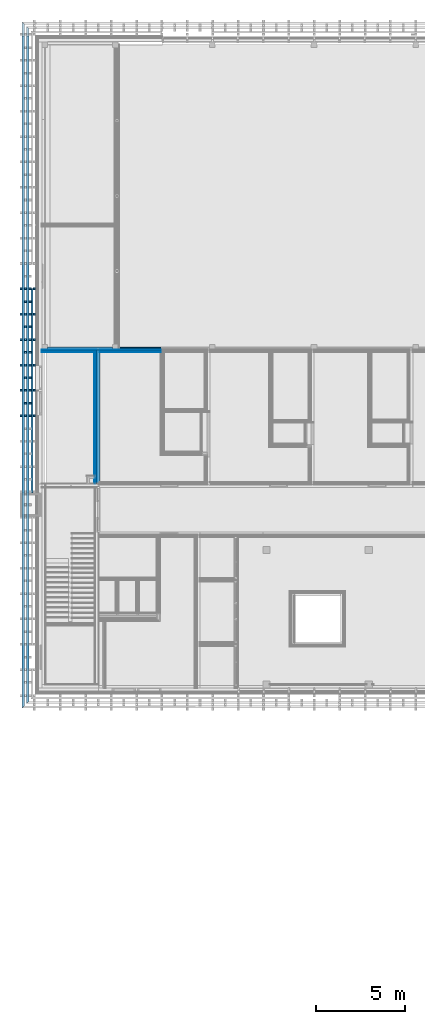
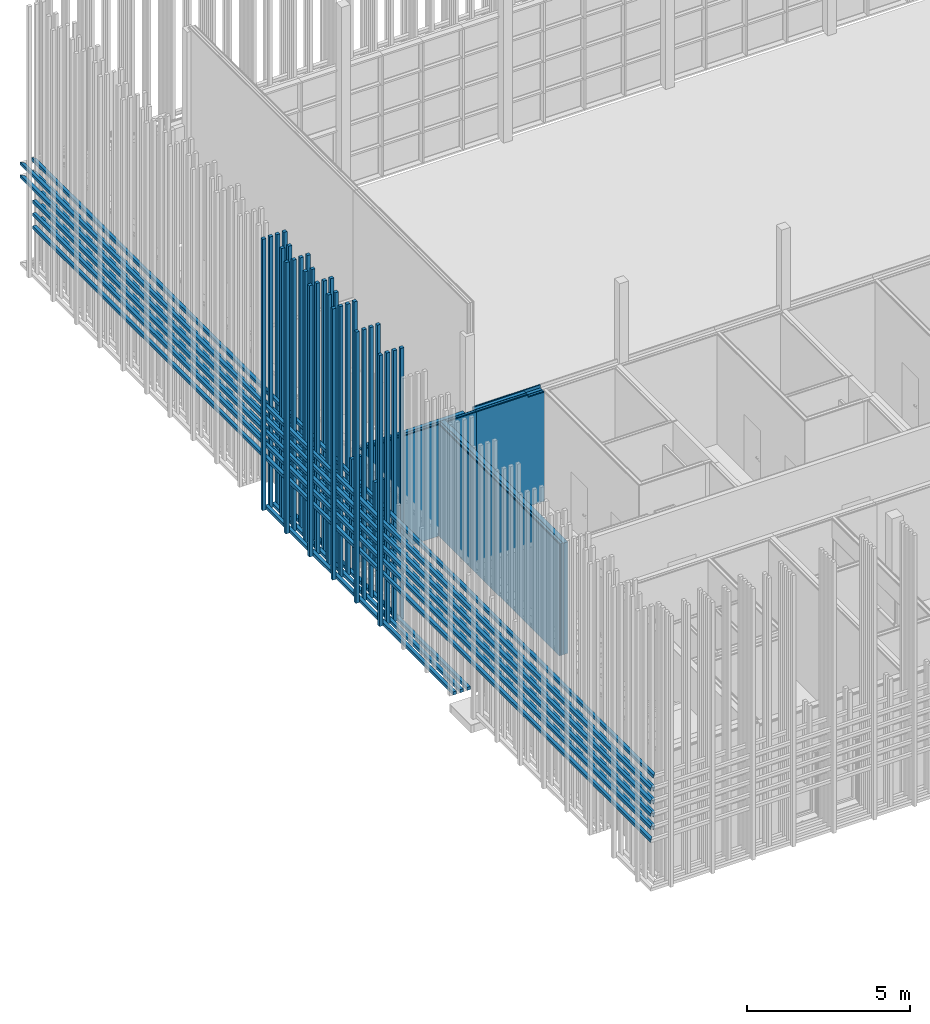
# One storey, part 222 of 260: 21 building element parts, 17 discrete accessories, 3 elements without a shape of their own.
"""IFC2X3 building model written with IfcOpenShell, lengths in millimetres."""

from ifc_helpers import new_model, entity, si_unit, converted_unit, derived_unit, money_unit, direction, frame, origin_with_axes, place, context, subcontext, project, spatial, faceted_brep, material, material_list, type_object, element, aggregate, save


model = new_model("IFC2X3")

# Units and contexts
model_context = context("Model", 3, precision=0.01, world=origin_with_axes(), true_north=direction((0.0, 1.0)))
body_context = subcontext(model_context, "Body", "Model", "MODEL_VIEW")
ifc_project = project(units=[si_unit("LENGTHUNIT", "METRE", prefix="MILLI"), si_unit("AREAUNIT", "SQUARE_METRE"), si_unit("VOLUMEUNIT", "CUBIC_METRE"), converted_unit("PLANEANGLEUNIT", "DEGREE", entity("IfcPlaneAngleMeasure", 0.0174532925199), si_unit("PLANEANGLEUNIT", "RADIAN"), dimensions=[0, 0, 0, 0, 0, 0, 0]), money_unit("EUR"), converted_unit("TIMEUNIT", "Year", entity("IfcTimeMeasure", 31556926.0), si_unit("TIMEUNIT", "SECOND"), dimensions=[0, 0, 1, 0, 0, 0, 0]), si_unit("MASSUNIT", "GRAM", prefix="KILO"), si_unit("THERMODYNAMICTEMPERATUREUNIT", "DEGREE_CELSIUS"), si_unit("LUMINOUSINTENSITYUNIT", "LUMEN"), si_unit("ENERGYUNIT", "JOULE", prefix="MEGA"), derived_unit("THERMALCONDUCTANCEUNIT", [(si_unit("POWERUNIT", "WATT"), 1), (si_unit("LENGTHUNIT", "METRE"), -1), (si_unit("THERMODYNAMICTEMPERATUREUNIT", "KELVIN"), -1)]), derived_unit("SPECIFICHEATCAPACITYUNIT", [(si_unit("ENERGYUNIT", "JOULE"), 1), (si_unit("MASSUNIT", "GRAM", prefix="KILO"), -1), (si_unit("THERMODYNAMICTEMPERATUREUNIT", "KELVIN"), -1)]), derived_unit("MASSDENSITYUNIT", [(si_unit("MASSUNIT", "GRAM", prefix="KILO"), 1), (si_unit("VOLUMEUNIT", "CUBIC_METRE"), -1)])], contexts=[model_context])

# Site, building, storey
site_placement = place(None, origin_with_axes())
site = spatial("IfcSite", under=ifc_project, at=site_placement, Name="Kolde pst 67a", CompositionType="ELEMENT")
building_placement = place(site_placement, origin_with_axes())
building = spatial("IfcBuilding", under=site, at=building_placement, Name="Riigigümnaasium", CompositionType="ELEMENT")
storey_placement = place(building_placement, origin_with_axes())
storey = spatial("IfcBuildingStorey", under=building, at=storey_placement, Name="1. korrus", CompositionType="ELEMENT", Elevation=0.0)

# Discrete accessories
ifc_material_1 = material(Name="_VÄLISVIIMISTLUS - sõrmjätkatud puitprussid 120x115mm, liitekohad vähemärgatavad, Platowood sõrmjätkatud kuusk või samaväärne; eeltöödeldud tuletõkkevõõbaga, tuletundlikkus B-s1, d0, Woodsafe Exterior WFX™ või samaväärne; kinnitused vastavalt EK osale")
ifc_material_list_1 = material_list([ifc_material_1, ifc_material_1, ifc_material_1, ifc_material_1])
discrete_accessory_type_1 = type_object("IfcDiscreteAccessoryType", Name="120 4-ne vertikaalne 870 x 115")
for number, where, z_axis, x_axis in (
    (1, (-310.003213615, 70542.2222771, 280.0), (0.0, 0.0, 1.0), (0.999999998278, -5.86859191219e-05, 0.0)),
    (2, (-310.003213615, 69112.2222771, 280.0), (0.0, 0.0, 1.0), (0.999999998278, -5.86859191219e-05, 0.0)),
    (3, (-310.003213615, 67682.2222772, 280.0), (0.0, 0.0, 1.0), (0.999999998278, -5.86859191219e-05, 0.0)),
    (4, (-310.003213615, 66252.2222772, 280.0), (0.0, 0.0, 1.0), (0.999999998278, -5.86859191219e-05, 0.0)),
    (5, (-310.003213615, 64822.2222772, 280.0), (0.0, 0.0, 1.0), (0.999999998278, -5.86859191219e-05, 0.0)),
    (6, (-310.003213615, 63392.2222772, 280.0), (0.0, 0.0, 1.0), (0.999999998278, -5.86859191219e-05, 0.0)),
):
    element("IfcDiscreteAccessory", number, at=place(storey_placement, frame(where, z_axis=z_axis, x_axis=x_axis)), inside=storey, type_object=discrete_accessory_type_1, material=ifc_material_list_1, Name="Päikesevarjestus", context=body_context, shape_type="Brep", body=[
        faceted_brep([(-133.0, -70.0, 0.0), (-13.0, -70.0, 0.0), (-13.0, -70.0, 10140.0), (-133.0, -70.0, 10140.0), (-133.0, 45.0, 0.0), (-13.0, 45.0, 0.0), (-13.0, 45.0, 10140.0), (-133.0, 45.0, 10140.0)], [[[0, 1, 2, 3]], [[0, 4, 5, 1]], [[1, 5, 6, 2]], [[3, 2, 6, 7]], [[4, 0, 3, 7]], [[5, 4, 7, 6]]]),
        faceted_brep([(-383.0, -70.0, 0.0), (-263.0, -70.0, 0.0), (-263.0, -70.0, 10140.0), (-383.0, -70.0, 10140.0), (-383.0, 45.0, 0.0), (-263.0, 45.0, 0.0), (-263.0, 45.0, 10140.0), (-383.0, 45.0, 10140.0)], [[[0, 1, 2, 3]], [[0, 4, 5, 1]], [[1, 5, 6, 2]], [[3, 2, 6, 7]], [[4, 0, 3, 7]], [[5, 4, 7, 6]]]),
        faceted_brep([(-633.0, -70.0, 0.0), (-513.0, -70.0, 0.0), (-513.0, -70.0, 10140.0), (-633.0, -70.0, 10140.0), (-633.0, 45.0, 0.0), (-513.0, 45.0, 0.0), (-513.0, 45.0, 10140.0), (-633.0, 45.0, 10140.0)], [[[0, 1, 2, 3]], [[0, 4, 5, 1]], [[1, 5, 6, 2]], [[3, 2, 6, 7]], [[4, 0, 3, 7]], [[5, 4, 7, 6]]]),
        faceted_brep([(-883.0, -70.0, 0.0), (-763.0, -70.0, 0.0), (-763.0, -70.0, 10140.0), (-883.0, -70.0, 10140.0), (-883.0, 45.0, 0.0), (-763.0, 45.0, 0.0), (-763.0, 45.0, 10140.0), (-883.0, 45.0, 10140.0)], [[[0, 1, 2, 3]], [[0, 4, 5, 1]], [[1, 5, 6, 2]], [[3, 2, 6, 7]], [[4, 0, 3, 7]], [[5, 4, 7, 6]]]),
    ])
ifc_material_list_2 = material_list([ifc_material_1, ifc_material_1, ifc_material_1])
discrete_accessory_type_2 = type_object("IfcDiscreteAccessoryType", Name="120 1+paiksekaitse 3 tk  620 x 115")
discrete_accessory_1_placement = place(storey_placement, frame((-323.002280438, 70565.0003722, 352.5), z_axis=(0.0, 0.0, 1.0), x_axis=(-1.0, 0.0, 0.0)))
element("IfcDiscreteAccessory", 7, at=discrete_accessory_1_placement, inside=storey, type_object=discrete_accessory_type_2, material=ifc_material_list_2, Name="Päikesevarjestus", context=body_context, shape_type="Brep", body=[
    faceted_brep([(625.0, 11533.9089123, 45.0), (625.0, 0.0, 45.0), (745.0, 0.0, 45.0), (745.0, 11533.9089123, 45.0), (625.0, 11533.9089123, -70.0), (625.0, 0.0, -70.0), (745.0, 0.0, -70.0), (745.0, 11533.9089123, -70.0)], [[[0, 1, 2, 3]], [[4, 5, 1, 0]], [[5, 6, 2, 1]], [[3, 2, 6, 7]], [[4, 0, 3, 7]], [[7, 6, 5, 4]]]),
    faceted_brep([(375.0, 11533.9089123, 45.0), (375.0, 0.0, 45.0), (495.0, 0.0, 45.0), (495.0, 11533.9089123, 45.0), (375.0, 11533.9089123, -70.0), (375.0, 0.0, -70.0), (495.0, 0.0, -70.0), (495.0, 11533.9089123, -70.0)], [[[0, 1, 2, 3]], [[4, 5, 1, 0]], [[5, 6, 2, 1]], [[3, 2, 6, 7]], [[4, 0, 3, 7]], [[7, 6, 5, 4]]]),
    faceted_brep([(125.0, 11533.9089123, 45.0), (125.0, 0.0, 45.0), (245.0, 0.0, 45.0), (245.0, 11533.9089123, 45.0), (125.0, 11533.9089123, -70.0), (125.0, 0.0, -70.0), (245.0, 0.0, -70.0), (245.0, 11533.9089123, -70.0)], [[[0, 1, 2, 3]], [[4, 5, 1, 0]], [[5, 6, 2, 1]], [[3, 2, 6, 7]], [[4, 0, 3, 7]], [[7, 6, 5, 4]]]),
])
ifc_material_list_3 = material_list([ifc_material_1, ifc_material_1])
discrete_accessory_type_3 = type_object("IfcDiscreteAccessoryType", Name="1+paiksekaitse 4 tk nihkes 2 370 x 355")
discrete_accessory_2_placement = place(storey_placement, frame((-322.999590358, 84770.0069769, 2580.00014213), z_axis=(0.0, 0.0, 1.0), x_axis=(-1.0, 1.8937548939e-07, 0.0)))
element("IfcDiscreteAccessory", 8, at=discrete_accessory_2_placement, inside=storey, type_object=discrete_accessory_type_3, material=ifc_material_list_3, Name="Päikesevarjestus", context=body_context, shape_type="Brep", body=[
    faceted_brep([(375.0, 37471.4086862, 347.001360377), (375.0, 0.0, 347.001360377), (495.0, 0.0, 357.5), (495.0, 37591.445393, 357.5), (375.0, 37471.4086862, 242.5), (375.0, 0.0, 242.5), (495.0, 0.0, 242.5), (495.0, 37591.445393, 242.5)], [[[0, 1, 2, 3]], [[4, 5, 1, 0]], [[5, 6, 2, 1]], [[3, 2, 6, 7]], [[4, 0, 3, 7]], [[7, 6, 5, 4]]]),
    faceted_brep([(625.0, 37721.4851587, 107.001360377), (625.0, 0.0, 107.001360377), (745.0, 0.0, 117.5), (745.0, 37841.5218656, 117.5), (625.0, 37721.4851587, 2.5), (625.0, 0.0, 2.5), (745.0, 0.0, 2.5), (745.0, 37841.5218656, 2.5)], [[[0, 1, 2, 3]], [[4, 5, 1, 0]], [[5, 6, 2, 1]], [[3, 2, 6, 7]], [[4, 0, 3, 7]], [[7, 6, 5, 4]]]),
])
discrete_accessory_3_placement = place(storey_placement, frame((-322.999590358, 84770.0069769, 3060.00014213), z_axis=(0.0, 0.0, 1.0), x_axis=(-1.0, 1.89375489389e-07, 0.0)))
element("IfcDiscreteAccessory", 9, at=discrete_accessory_3_placement, inside=storey, type_object=discrete_accessory_type_3, material=ifc_material_list_3, Name="Päikesevarjestus", context=body_context, shape_type="Brep", body=[
    faceted_brep([(375.0, 37471.4084181, 347.001360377), (375.0, 0.0, 347.001360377), (495.0, 0.0, 357.5), (495.0, 37591.445046, 357.5), (375.0, 37471.4084181, 242.5), (375.0, 0.0, 242.5), (495.0, 0.0, 242.5), (495.0, 37591.445046, 242.5)], [[[0, 1, 2, 3]], [[4, 5, 1, 0]], [[5, 6, 2, 1]], [[3, 2, 6, 7]], [[4, 0, 3, 7]], [[7, 6, 5, 4]]]),
    faceted_brep([(625.0, 37721.4847263, 107.001360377), (625.0, 0.0, 107.001360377), (745.0, 0.0, 117.5), (745.0, 37841.5213542, 117.5), (625.0, 37721.4847263, 2.5), (625.0, 0.0, 2.5), (745.0, 0.0, 2.5), (745.0, 37841.5213542, 2.5)], [[[0, 1, 2, 3]], [[4, 5, 1, 0]], [[5, 6, 2, 1]], [[3, 2, 6, 7]], [[4, 0, 3, 7]], [[7, 6, 5, 4]]]),
])
for number, where, z_axis, x_axis in (
    (10, (-322.999584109, 84803.0069831, 3540.00014213), (0.0, 0.0, 1.0), (-1.0, 1.89375489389e-07, 0.0)),
    (11, (-322.999584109, 84803.0069831, 4020.00014213), (0.0, 0.0, 1.0), (-1.0, 1.89375489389e-07, 0.0)),
):
    element("IfcDiscreteAccessory", number, at=place(storey_placement, frame(where, z_axis=z_axis, x_axis=x_axis)), inside=storey, type_object=discrete_accessory_type_3, material=ifc_material_list_3, Name="Päikesevarjestus", context=body_context, shape_type="Brep", body=[
        faceted_brep([(375.0, 37504.4084243, 347.001360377), (375.0, -374.999999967, 347.001360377), (495.0, -494.999999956, 357.5), (495.0, 37624.4450523, 357.5), (375.0, 37504.4084243, 242.5), (375.0, -374.999999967, 242.5), (495.0, -494.999999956, 242.5), (495.0, 37624.4450523, 242.5)], [[[0, 1, 2, 3]], [[4, 5, 1, 0]], [[5, 6, 2, 1]], [[3, 2, 6, 7]], [[4, 0, 3, 7]], [[7, 6, 5, 4]]]),
        faceted_brep([(625.0, 37754.4847325, 107.001360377), (625.0, -624.999999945, 107.001360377), (745.0, -744.999999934, 117.5), (745.0, 37874.5213605, 117.5), (625.0, 37754.4847325, 2.5), (625.0, -624.999999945, 2.5), (745.0, -744.999999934, 2.5), (745.0, 37874.5213605, 2.5)], [[[0, 1, 2, 3]], [[4, 5, 1, 0]], [[5, 6, 2, 1]], [[3, 2, 6, 7]], [[4, 0, 3, 7]], [[7, 6, 5, 4]]]),
    ])
discrete_accessory_4_placement = place(storey_placement, frame((-322.999590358, 84770.0069769, 2100.00014213), z_axis=(0.0, 0.0, 1.0), x_axis=(-1.0, 1.8937548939e-07, 0.0)))
element("IfcDiscreteAccessory", 12, at=discrete_accessory_4_placement, inside=storey, type_object=discrete_accessory_type_3, material=ifc_material_list_3, Name="Päikesevarjestus", context=body_context, shape_type="Brep", body=[
    faceted_brep([(375.0, 37471.4086862, 347.001360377), (375.0, 0.0, 347.001360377), (495.0, 0.0, 357.5), (495.0, 37591.445393, 357.5), (375.0, 37471.4086862, 242.5), (375.0, 0.0, 242.5), (495.0, 0.0, 242.5), (495.0, 37591.445393, 242.5)], [[[0, 1, 2, 3]], [[4, 5, 1, 0]], [[5, 6, 2, 1]], [[3, 2, 6, 7]], [[4, 0, 3, 7]], [[7, 6, 5, 4]]]),
    faceted_brep([(625.0, 37721.4851587, 107.001360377), (625.0, 0.0, 107.001360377), (745.0, 0.0, 117.5), (745.0, 37841.5218656, 117.5), (625.0, 37721.4851587, 2.5), (625.0, 0.0, 2.5), (745.0, 0.0, 2.5), (745.0, 37841.5218656, 2.5)], [[[0, 1, 2, 3]], [[4, 5, 1, 0]], [[5, 6, 2, 1]], [[3, 2, 6, 7]], [[4, 0, 3, 7]], [[7, 6, 5, 4]]]),
])
discrete_accessory_type_4 = type_object("IfcDiscreteAccessoryType", Name="1+paiksekaitse 3 370 x 115")
for number, where, z_axis, x_axis in (
    (13, (-1290.00042497, 68324.7586624, 280.0), (0.0, 0.0, 1.0), (1.0, 0.0, 0.0)),
    (14, (-1290.00042497, 69754.7586624, 280.0), (0.0, 0.0, 1.0), (1.0, 0.0, 0.0)),
    (15, (-1290.00042497, 66894.7586624, 280.0), (0.0, 0.0, 1.0), (1.0, 0.0, 0.0)),
):
    element("IfcDiscreteAccessory", number, at=place(storey_placement, frame(where, z_axis=z_axis, x_axis=x_axis)), inside=storey, type_object=discrete_accessory_type_4, material=ifc_material_list_3, Name="Päikesevarjestus", context=body_context, shape_type="Brep", body=[
        faceted_brep([(467.0, 117.5, 0.0), (347.0, 117.5, 0.0), (347.0, 117.5, 10140.0), (467.0, 117.5, 10140.0), (467.0, 2.5, 0.0), (347.0, 2.5, 0.0), (347.0, 2.5, 10140.0), (467.0, 2.5, 10140.0)], [[[0, 1, 2, 3]], [[0, 4, 5, 1]], [[1, 5, 6, 2]], [[3, 2, 6, 7]], [[4, 0, 3, 7]], [[5, 4, 7, 6]]]),
        faceted_brep([(717.0, 117.5, 0.0), (597.0, 117.5, 0.0), (597.0, 117.5, 10140.0), (717.0, 117.5, 10140.0), (717.0, 2.5, 0.0), (597.0, 2.50000000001, 0.0), (597.0, 2.50000000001, 10140.0), (717.0, 2.5, 10140.0)], [[[0, 1, 2, 3]], [[0, 4, 5, 1]], [[1, 5, 6, 2]], [[3, 2, 6, 7]], [[4, 0, 3, 7]], [[5, 4, 7, 6]]]),
    ])
for number, where, z_axis, x_axis in (
    (16, (-1290.00746728, 65464.7585658, 2100.00014213), (0.0, 0.0, 1.0), (1.0, 0.0, 0.0)),
    (17, (-1290.00746728, 64034.7585658, 2100.00014213), (0.0, 0.0, 1.0), (1.0, 0.0, 0.0)),
):
    element("IfcDiscreteAccessory", number, at=place(storey_placement, frame(where, z_axis=z_axis, x_axis=x_axis)), inside=storey, type_object=discrete_accessory_type_4, material=ifc_material_list_3, Name="Päikesevarjestus", context=body_context, shape_type="Brep", body=[
        faceted_brep([(467.0, 117.5, 0.0), (347.0, 117.5, 0.0), (347.0, 117.5, 3050.0), (467.0, 117.5, 3050.0), (467.0, 2.5, 0.0), (347.0, 2.5, 0.0), (347.0, 2.5, 3050.0), (467.0, 2.5, 3050.0)], [[[0, 1, 2, 3]], [[0, 4, 5, 1]], [[1, 5, 6, 2]], [[3, 2, 6, 7]], [[4, 0, 3, 7]], [[5, 4, 7, 6]]]),
        faceted_brep([(717.0, 117.5, 0.0), (597.0, 117.5, 0.0), (597.0, 117.5, 3050.0), (717.0, 117.5, 3050.0), (717.0, 2.5, 0.0), (597.0, 2.50000000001, 0.0), (597.0, 2.50000000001, 3050.0), (717.0, 2.5, 3050.0)], [[[0, 1, 2, 3]], [[0, 4, 5, 1]], [[1, 5, 6, 2]], [[3, 2, 6, 7]], [[4, 0, 3, 7]], [[5, 4, 7, 6]]]),
    ])

# Wall, building element parts
wall_type = type_object("IfcWallType", Name="SS-CLT-16/1_vill75+krohv 52 dB 300", PredefinedType="NOTDEFINED")
wall_1_placement = place(storey_placement, frame((3299.93768339, 67089.9971514, 0.0), z_axis=(0.0, 0.0, 1.0), x_axis=(0.0, -1.0, 0.0)))
wall_1 = element("IfcWall", 18, at=wall_1_placement, inside=storey, type_object=wall_type, Name="Sisesein")
ifc_material_2 = material(Name="_KANDETARIND - CLT ristkihtliimpuit vastavalt EK osale, CLT paigaldusvuugid teibitakse ROTHOBLAAS teibiga")
building_element_part_1_placement = place(wall_1_placement, origin_with_axes())
building_element_part_1 = element("IfcBuildingElementPart", 19, at=building_element_part_1_placement, material=ifc_material_2, Name="_KANDETARIND - CLT ristkihtliimpuit vastavalt EK osale, CLT paigaldusvuugid teibitakse ROTHOBLAAS teibiga", context=body_context, shape_type="Brep", body=[
    faceted_brep([(0.0, -160.0, 0.0), (0.0, -160.0, 4170.0), (0.0, 0.0, 4170.0), (0.0, 0.0, 0.0), (7529.99920353, -160.0, 0.0), (7529.99920353, -160.0, 4170.0), (7529.99920353, 0.0, 4170.0), (7529.99920353, 0.0, 0.0)], [[[0, 1, 2, 3]], [[4, 5, 1, 0]], [[5, 6, 2, 1]], [[3, 2, 6, 7]], [[0, 3, 7, 4]], [[7, 6, 5, 4]]]),
])
ifc_material_3 = material(Name="_ÕHKVAHE")
building_element_part_2_placement = place(wall_1_placement, origin_with_axes())
building_element_part_2 = element("IfcBuildingElementPart", 20, at=building_element_part_2_placement, material=ifc_material_3, Name="_ÕHKVAHE", context=body_context, shape_type="Brep", body=[
    faceted_brep([(15.0, -175.0, 0.0), (15.0, -175.0, 4170.0), (15.0, -160.0, 4170.0), (15.0, -160.0, 0.0), (7529.99920353, -175.0, 0.0), (7529.99920353, -175.0, 4170.0), (7529.99920353, -160.0, 4170.0), (7529.99920353, -160.0, 0.0)], [[[0, 1, 2, 3]], [[4, 5, 1, 0]], [[5, 6, 2, 1]], [[3, 2, 6, 7]], [[0, 3, 7, 4]], [[7, 6, 5, 4]]]),
])
ifc_material_4 = material(Name="_KARKASS - metallkarkass CW 75/50/06 ja UW 75/40/06, samm 600, vahel mineraalvill, helineeldetegur αw = 1.0,  ISOVER ACOUSTIC 75mm või samaväärne")
building_element_part_3_placement = place(wall_1_placement, origin_with_axes())
building_element_part_3 = element("IfcBuildingElementPart", 21, at=building_element_part_3_placement, material=ifc_material_4, Name="_KARKASS - metallkarkass CW 75/50/06 ja UW 75/40/06, samm 600, vahel mineraalvill, helineeldetegur αw = 1.0,  ISOVER ACOUSTIC 75mm või samaväärne", context=body_context, shape_type="Brep", body=[
    faceted_brep([(90.0, -250.0, 0.0), (90.0, -250.0, 4170.0), (90.0, -175.0, 4170.0), (90.0, -175.0, 0.0), (7529.99920353, -250.0, 0.0), (7529.99920353, -250.0, 4170.0), (7529.99920353, -175.0, 4170.0), (7529.99920353, -175.0, 0.0)], [[[0, 1, 2, 3]], [[4, 5, 1, 0]], [[5, 6, 2, 1]], [[3, 2, 6, 7]], [[0, 3, 7, 4]], [[7, 6, 5, 4]]]),
])
ifc_material_5 = material(Name="_PLAATMATERJAL - OSB3 plaat")
building_element_part_4_placement = place(wall_1_placement, origin_with_axes())
building_element_part_4 = element("IfcBuildingElementPart", 22, at=building_element_part_4_placement, material=ifc_material_5, Name="_PLAATMATERJAL - OSB3 plaat", context=body_context, shape_type="Brep", body=[
    faceted_brep([(100.0, -260.0, 0.0), (100.0, -260.0, 4170.0), (100.0, -250.0, 4170.0), (100.0, -250.0, 0.0), (7529.99920353, -260.0, 0.0), (7529.99920353, -260.0, 4170.0), (7529.99920353, -250.0, 4170.0), (7529.99920353, -250.0, 0.0)], [[[0, 1, 2, 3]], [[4, 5, 1, 0]], [[5, 6, 2, 1]], [[3, 2, 6, 7]], [[0, 3, 7, 4]], [[7, 6, 5, 4]]]),
])
ifc_material_6 = material(Name="_PLAATMATERJAL - tuletõkkekipsplaat, Knauf Red GKF või samaväärne")
building_element_part_5_placement = place(wall_1_placement, origin_with_axes())
building_element_part_5 = element("IfcBuildingElementPart", 23, at=building_element_part_5_placement, material=ifc_material_6, Name="_PLAATMATERJAL - tuletõkkekipsplaat, Knauf Red GKF või samaväärne", context=body_context, shape_type="Brep", body=[
    faceted_brep([(115.0, -275.0, 0.0), (115.0, -275.0, 4170.0), (115.0, -260.0, 4170.0), (115.0, -260.0, 0.0), (7529.99920353, -275.0, 0.0), (7529.99920353, -275.0, 4170.0), (7529.99920353, -260.0, 4170.0), (7529.99920353, -260.0, 0.0)], [[[0, 1, 2, 3]], [[4, 5, 1, 0]], [[5, 6, 2, 1]], [[3, 2, 6, 7]], [[0, 3, 7, 4]], [[7, 6, 5, 4]]]),
])
building_element_part_6_placement = place(wall_1_placement, origin_with_axes())
building_element_part_6 = element("IfcBuildingElementPart", 24, at=building_element_part_6_placement, material=ifc_material_6, Name="_PLAATMATERJAL - tuletõkkekipsplaat, Knauf Red GKF või samaväärne", context=body_context, shape_type="Brep", body=[
    faceted_brep([(130.0, -290.0, 0.0), (130.0, -290.0, 4170.0), (130.0, -275.0, 4170.0), (130.0, -275.0, 0.0), (7529.99920353, -290.0, 0.0), (7529.99920353, -290.0, 4170.0), (7529.99920353, -275.0, 4170.0), (7529.99920353, -275.0, 0.0)], [[[0, 1, 2, 3]], [[4, 5, 1, 0]], [[5, 6, 2, 1]], [[3, 2, 6, 7]], [[0, 3, 7, 4]], [[7, 6, 5, 4]]]),
])
ifc_material_7 = material(Name="_VIIMISTLUSKIHT - viimistlus vastavalt SA osale")
building_element_part_7_placement = place(wall_1_placement, origin_with_axes())
building_element_part_7 = element("IfcBuildingElementPart", 25, at=building_element_part_7_placement, material=ifc_material_7, Name="_VIIMISTLUSKIHT - viimistlus vastavalt SA osale", context=body_context, shape_type="Brep", body=[
    faceted_brep([(140.0, -300.0, 0.0), (140.0, -300.0, 4170.0), (140.0, -290.0, 4170.0), (140.0, -290.0, 0.0), (7529.99920353, -300.0, 0.0), (7529.99920353, -300.0, 4170.0), (7529.99920353, -290.0, 4170.0), (7529.99920353, -290.0, 0.0)], [[[0, 1, 2, 3]], [[4, 5, 1, 0]], [[5, 6, 2, 1]], [[3, 2, 6, 7]], [[0, 3, 7, 4]], [[7, 6, 5, 4]]]),
])
aggregate(wall_1, [building_element_part_1, building_element_part_2, building_element_part_3, building_element_part_4, building_element_part_5, building_element_part_6, building_element_part_7])

wall_2_placement = place(storey_placement, frame((39.9493827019, 67089.9971514, 0.0), z_axis=(0.0, 0.0, 1.0), x_axis=(1.0, 0.0, 0.0)))
wall_2 = element("IfcWall", 26, at=wall_2_placement, inside=storey, type_object=wall_type, Name="Sisesein")
building_element_part_8_placement = place(wall_2_placement, origin_with_axes())
building_element_part_8 = element("IfcBuildingElementPart", 27, at=building_element_part_8_placement, material=ifc_material_2, Name="_KANDETARIND - CLT ristkihtliimpuit vastavalt EK osale, CLT paigaldusvuugid teibitakse ROTHOBLAAS teibiga", context=body_context, shape_type="Brep", body=[
    faceted_brep([(320.0, 160.0, 0.0), (320.0, 160.0, 4150.0), (3980.05011721, 160.0, 4150.0), (3980.05011721, 160.0, 0.0), (320.0, 0.0, 4150.0), (320.0, 0.0, 0.0), (3980.05011721, 2.0307311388e-08, 4150.0), (3980.05011721, 2.0307311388e-08, 0.0)], [[[0, 1, 2, 3]], [[4, 1, 0, 5]], [[1, 4, 6, 2]], [[7, 3, 2, 6]], [[5, 0, 3, 7]], [[4, 5, 7, 6]]]),
])
building_element_part_9_placement = place(wall_2_placement, origin_with_axes())
building_element_part_9 = element("IfcBuildingElementPart", 28, at=building_element_part_9_placement, material=ifc_material_3, Name="_ÕHKVAHE", context=body_context, shape_type="Brep", body=[
    faceted_brep([(160.106975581, 0.0, 100.0), (160.106975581, 0.0, 4170.0), (3099.98830069, 0.0, 4170.0), (3099.98830069, 0.0, 0.0), (0.0, 0.0, 0.0), (0.0, 0.0, 100.0), (160.106975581, -15.0, 100.0), (160.106975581, -15.0, 4170.0), (3099.98830069, -15.0, 4170.0), (3099.98830069, -15.0, 0.0), (0.0, -15.0, 0.0), (0.0, -15.0, 100.0)], [[[0, 1, 2, 3, 4, 5]], [[6, 7, 1, 0]], [[7, 8, 2, 1]], [[3, 2, 8, 9]], [[10, 4, 3, 9]], [[4, 10, 11, 5]], [[5, 11, 6, 0]], [[9, 8, 7, 6, 11, 10]]]),
    faceted_brep([(3259.98830069, 0.0, 0.0), (3259.98830069, 0.0, 4170.0), (4127.550117, 0.0, 4170.0), (4300.05011721, 0.0, 4170.0), (4300.05011721, 0.0, 0.0), (3259.98830069, -15.0, 0.0), (3259.98830069, -15.0, 4170.0), (4300.05011721, -15.0, 4170.0), (4300.05011721, -15.0, 0.0)], [[[0, 1, 2, 3, 4]], [[5, 6, 1, 0]], [[6, 7, 3, 2, 1]], [[4, 3, 7, 8]], [[5, 0, 4, 8]], [[8, 7, 6, 5]]]),
])
building_element_part_10_placement = place(wall_2_placement, origin_with_axes())
building_element_part_10 = element("IfcBuildingElementPart", 29, at=building_element_part_10_placement, material=ifc_material_4, Name="_KARKASS - metallkarkass CW 75/50/06 ja UW 75/40/06, samm 600, vahel mineraalvill, helineeldetegur αw = 1.0,  ISOVER ACOUSTIC 75mm või samaväärne", context=body_context, shape_type="Brep", body=[
    faceted_brep([(160.106975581, -15.0, 4170.0), (3084.98830069, -15.0, 4170.0), (3084.98830069, -15.0, 0.0), (0.0, -15.0, 0.0), (0.0, -15.0, 100.0), (160.106975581, -15.0, 100.0), (3084.98830069, -90.0, 4170.0), (160.106975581, -90.0, 4170.0), (3084.98830069, -90.0, 0.0), (0.0, -90.0, 0.0), (0.0, -90.0, 100.0), (160.106975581, -90.0, 100.0)], [[[0, 1, 2, 3, 4, 5]], [[6, 1, 0, 7]], [[1, 6, 8, 2]], [[3, 2, 8, 9]], [[9, 10, 4, 3]], [[10, 11, 5, 4]], [[7, 0, 5, 11]], [[6, 7, 11, 10, 9, 8]]]),
    faceted_brep([(3259.98830069, -15.0, 4170.0), (4300.05011721, -15.0, 4170.0), (4300.05011721, -15.0, 0.0), (3259.98830069, -15.0, 0.0), (4300.05011721, -90.0, 4170.0), (3259.98830069, -90.0, 4170.0), (4300.05011721, -90.0, 0.0), (3259.98830069, -90.0, 0.0)], [[[0, 1, 2, 3]], [[4, 1, 0, 5]], [[1, 4, 6, 2]], [[3, 2, 6, 7]], [[5, 0, 3, 7]], [[4, 5, 7, 6]]]),
])
building_element_part_11_placement = place(wall_2_placement, origin_with_axes())
building_element_part_11 = element("IfcBuildingElementPart", 30, at=building_element_part_11_placement, material=ifc_material_5, Name="_PLAATMATERJAL - OSB3 plaat", context=body_context, shape_type="Brep", body=[
    faceted_brep([(160.106975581, -90.0, 4170.0), (3009.98830069, -90.0, 4170.0), (3009.98830069, -90.0, 0.0), (0.0, -90.0, 0.0), (0.0, -90.0, 100.0), (160.106975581, -90.0, 100.0), (3009.98830069, -100.0, 4170.0), (160.106975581, -100.0, 4170.0), (3009.98830069, -100.0, 0.0), (0.0, -100.0, 0.0), (0.0, -100.0, 100.0), (160.106975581, -100.0, 100.0)], [[[0, 1, 2, 3, 4, 5]], [[6, 1, 0, 7]], [[1, 6, 8, 2]], [[3, 2, 8, 9]], [[9, 10, 4, 3]], [[10, 11, 5, 4]], [[7, 0, 5, 11]], [[6, 7, 11, 10, 9, 8]]]),
    faceted_brep([(3259.98830069, -90.0, 4170.0), (4300.05011721, -90.0, 4170.0), (4300.05011721, -90.0, 0.0), (3259.98830069, -90.0, 0.0), (4300.05011721, -100.0, 4170.0), (3259.98830069, -100.0, 4170.0), (4300.05011721, -100.0, 0.0), (3259.98830069, -100.0, 0.0)], [[[0, 1, 2, 3]], [[4, 1, 0, 5]], [[1, 4, 6, 2]], [[3, 2, 6, 7]], [[5, 0, 3, 7]], [[4, 5, 7, 6]]]),
])
building_element_part_12_placement = place(wall_2_placement, origin_with_axes())
building_element_part_12 = element("IfcBuildingElementPart", 31, at=building_element_part_12_placement, material=ifc_material_6, Name="_PLAATMATERJAL - tuletõkkekipsplaat, Knauf Red GKF või samaväärne", context=body_context, shape_type="Brep", body=[
    faceted_brep([(160.106975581, -100.0, 4170.0), (2999.98830069, -100.0, 4170.0), (2999.98830069, -100.0, 0.0), (0.0, -100.0, 0.0), (0.0, -100.0, 100.0), (160.106975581, -100.0, 100.0), (2999.98830069, -115.0, 4170.0), (160.106975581, -115.0, 4170.0), (2999.98830069, -115.0, 0.0), (0.0, -115.0, 0.0), (0.0, -115.0, 100.0), (160.106975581, -115.0, 100.0)], [[[0, 1, 2, 3, 4, 5]], [[6, 1, 0, 7]], [[1, 6, 8, 2]], [[3, 2, 8, 9]], [[9, 10, 4, 3]], [[10, 11, 5, 4]], [[7, 0, 5, 11]], [[6, 7, 11, 10, 9, 8]]]),
    faceted_brep([(3259.98830069, -100.0, 4170.0), (4300.05011721, -100.0, 4170.0), (4300.05011721, -100.0, 0.0), (3259.98830069, -100.0, 0.0), (4300.05011721, -115.0, 4170.0), (3259.98830069, -115.0, 4170.0), (4300.05011721, -115.0, 0.0), (3259.98830069, -115.0, 0.0)], [[[0, 1, 2, 3]], [[4, 1, 0, 5]], [[1, 4, 6, 2]], [[3, 2, 6, 7]], [[5, 0, 3, 7]], [[4, 5, 7, 6]]]),
])
building_element_part_13_placement = place(wall_2_placement, origin_with_axes())
building_element_part_13 = element("IfcBuildingElementPart", 32, at=building_element_part_13_placement, material=ifc_material_6, Name="_PLAATMATERJAL - tuletõkkekipsplaat, Knauf Red GKF või samaväärne", context=body_context, shape_type="Brep", body=[
    faceted_brep([(160.106975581, -115.0, 4170.0), (2984.98830069, -115.0, 4170.0), (2984.98830069, -115.0, 0.0), (0.0, -115.0, 0.0), (0.0, -115.0, 100.0), (160.106975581, -115.0, 100.0), (2984.98830069, -130.0, 4170.0), (160.106975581, -130.0, 4170.0), (2984.98830069, -130.0, 0.0), (0.0, -130.0, 0.0), (0.0, -130.0, 100.0), (160.106975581, -130.0, 100.0)], [[[0, 1, 2, 3, 4, 5]], [[6, 1, 0, 7]], [[1, 6, 8, 2]], [[3, 2, 8, 9]], [[9, 10, 4, 3]], [[10, 11, 5, 4]], [[7, 0, 5, 11]], [[6, 7, 11, 10, 9, 8]]]),
    faceted_brep([(3259.98830069, -115.0, 4170.0), (4300.05011721, -115.0, 4170.0), (4300.05011721, -115.0, 0.0), (3259.98830069, -115.0, 0.0), (4300.05011721, -130.0, 4170.0), (3259.98830069, -130.0, 4170.0), (4300.05011721, -130.0, 0.0), (3259.98830069, -130.0, 0.0)], [[[0, 1, 2, 3]], [[4, 1, 0, 5]], [[1, 4, 6, 2]], [[3, 2, 6, 7]], [[5, 0, 3, 7]], [[4, 5, 7, 6]]]),
])
building_element_part_14_placement = place(wall_2_placement, origin_with_axes())
building_element_part_14 = element("IfcBuildingElementPart", 33, at=building_element_part_14_placement, material=ifc_material_7, Name="_VIIMISTLUSKIHT - viimistlus vastavalt SA osale", context=body_context, shape_type="Brep", body=[
    faceted_brep([(160.106975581, -130.0, 4170.0), (2969.98830069, -130.0, 4170.0), (2969.98830069, -130.0, 0.0), (0.0, -130.0, 0.0), (0.0, -130.0, 100.0), (160.106975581, -130.0, 100.0), (2969.98830069, -140.0, 4170.0), (160.106975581, -140.0, 4170.0), (2969.98830069, -140.0, 0.0), (0.0, -140.0, 0.0), (0.0, -140.0, 100.0), (160.106975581, -140.0, 100.0)], [[[0, 1, 2, 3, 4, 5]], [[6, 1, 0, 7]], [[1, 6, 8, 2]], [[3, 2, 8, 9]], [[9, 10, 4, 3]], [[10, 11, 5, 4]], [[7, 0, 5, 11]], [[6, 7, 11, 10, 9, 8]]]),
    faceted_brep([(3259.98830069, -130.0, 4170.0), (4300.05011721, -130.0, 4170.0), (4300.05011721, -130.0, 0.0), (3259.98830069, -130.0, 0.0), (4300.05011721, -140.0, 4170.0), (3259.98830069, -140.0, 4170.0), (4300.05011721, -140.0, 0.0), (3259.98830069, -140.0, 0.0)], [[[0, 1, 2, 3]], [[4, 1, 0, 5]], [[1, 4, 6, 2]], [[3, 2, 6, 7]], [[5, 0, 3, 7]], [[4, 5, 7, 6]]]),
])
aggregate(wall_2, [building_element_part_8, building_element_part_9, building_element_part_10, building_element_part_11, building_element_part_12, building_element_part_13, building_element_part_14])

wall_3_placement = place(storey_placement, frame((4339.99949991, 67089.9971514, 0.0), z_axis=(0.0, 0.0, 1.0), x_axis=(1.0, 0.0, 0.0)))
wall_3 = element("IfcWall", 34, at=wall_3_placement, inside=storey, type_object=wall_type, Name="Sisesein")
building_element_part_15_placement = place(wall_3_placement, origin_with_axes())
building_element_part_15 = element("IfcBuildingElementPart", 35, at=building_element_part_15_placement, material=ifc_material_2, Name="_KANDETARIND - CLT ristkihtliimpuit vastavalt EK osale, CLT paigaldusvuugid teibitakse ROTHOBLAAS teibiga", context=body_context, shape_type="Brep", body=[
    faceted_brep([(2403.47728785, 119.999594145, 4190.0), (2403.47728785, 160.0, 4190.0), (0.0, 160.0, 4190.0), (0.0, 119.999660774, 4190.0), (2403.47728785, 119.999594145, 4080.0), (2403.47728785, 0.0, 4080.0), (2403.47728785, 0.0, 0.0), (2403.47728785, 160.0, 0.0), (0.0, 160.0, 0.0), (0.0, 119.999963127, 4170.0), (0.0, 0.0, 0.0), (0.0, 0.0, 4170.0), (1819.99095163, 119.999594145, 4170.0), (1819.99095163, 119.999594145, 4080.0), (1819.99095163, 0.0, 4080.0), (1819.99095163, 0.0, 4170.0)], [[[0, 1, 2, 3]], [[4, 5, 6, 7, 1, 0]], [[2, 1, 7, 8]], [[9, 3, 2, 8, 10, 11]], [[12, 13, 4, 0, 3, 9]], [[5, 4, 13, 14]], [[14, 15, 11, 10, 6, 5]], [[8, 7, 6, 10]], [[15, 12, 9, 11]], [[12, 15, 14, 13]]]),
])
building_element_part_16_placement = place(wall_3_placement, origin_with_axes())
building_element_part_16 = element("IfcBuildingElementPart", 36, at=building_element_part_16_placement, material=ifc_material_3, Name="_ÕHKVAHE", context=body_context, shape_type="Brep", body=[
    faceted_brep([(1819.99095163, 0.0, 4170.0), (1819.99095163, 0.0, 4080.0), (2403.47728785, 0.0, 4080.0), (2403.47728785, 0.0, 0.0), (0.0, 0.0, 0.0), (0.0, 0.0, 4170.0), (1819.99095163, -15.0, 4170.0), (1819.99095163, -15.0, 4080.0), (2403.47728785, -15.0, 4080.0), (2403.47728785, -15.0, 0.0), (0.0, -15.0, 0.0), (0.0, -15.0, 4170.0)], [[[0, 1, 2, 3, 4, 5]], [[1, 0, 6, 7]], [[8, 2, 1, 7]], [[2, 8, 9, 3]], [[4, 3, 9, 10]], [[11, 5, 4, 10]], [[6, 0, 5, 11]], [[7, 6, 11, 10, 9, 8]]]),
])
building_element_part_17_placement = place(wall_3_placement, origin_with_axes())
building_element_part_17 = element("IfcBuildingElementPart", 37, at=building_element_part_17_placement, material=ifc_material_4, Name="_KARKASS - metallkarkass CW 75/50/06 ja UW 75/40/06, samm 600, vahel mineraalvill, helineeldetegur αw = 1.0,  ISOVER ACOUSTIC 75mm või samaväärne", context=body_context, shape_type="Brep", body=[
    faceted_brep([(1819.99095163, -15.0, 4170.0), (1819.99095163, -15.0, 4080.0), (2403.47728785, -15.0, 4080.0), (2403.47728785, -15.0, 0.0), (0.0, -15.0, 0.0), (0.0, -15.0, 4170.0), (1819.99095163, -90.0, 4170.0), (1819.99095163, -90.0, 4080.0), (2403.47728785, -90.0, 4080.0), (2403.47728785, -90.0, 0.0), (0.0, -90.0, 0.0), (0.0, -90.0, 4170.0)], [[[0, 1, 2, 3, 4, 5]], [[1, 0, 6, 7]], [[8, 2, 1, 7]], [[2, 8, 9, 3]], [[4, 3, 9, 10]], [[11, 5, 4, 10]], [[6, 0, 5, 11]], [[7, 6, 11, 10, 9, 8]]]),
])
building_element_part_18_placement = place(wall_3_placement, origin_with_axes())
building_element_part_18 = element("IfcBuildingElementPart", 38, at=building_element_part_18_placement, material=ifc_material_5, Name="_PLAATMATERJAL - OSB3 plaat", context=body_context, shape_type="Brep", body=[
    faceted_brep([(1819.99095163, -90.0, 4170.0), (1819.99095163, -90.0, 4080.0), (2403.47728785, -90.0, 4080.0), (2403.47728785, -90.0, 0.0), (0.0, -90.0, 0.0), (0.0, -90.0, 4170.0), (1819.99095163, -100.0, 4170.0), (1819.99095163, -100.0, 4080.0), (2403.47728785, -100.0, 4080.0), (2403.47728785, -100.0, 0.0), (0.0, -100.0, 0.0), (0.0, -100.0, 4170.0)], [[[0, 1, 2, 3, 4, 5]], [[1, 0, 6, 7]], [[8, 2, 1, 7]], [[2, 8, 9, 3]], [[4, 3, 9, 10]], [[11, 5, 4, 10]], [[6, 0, 5, 11]], [[7, 6, 11, 10, 9, 8]]]),
])
building_element_part_19_placement = place(wall_3_placement, origin_with_axes())
building_element_part_19 = element("IfcBuildingElementPart", 39, at=building_element_part_19_placement, material=ifc_material_6, Name="_PLAATMATERJAL - tuletõkkekipsplaat, Knauf Red GKF või samaväärne", context=body_context, shape_type="Brep", body=[
    faceted_brep([(1819.99095163, -100.0, 4170.0), (1819.99095163, -100.0, 4080.0), (2403.47728785, -100.0, 4080.0), (2403.47728785, -100.0, 0.0), (0.0, -100.0, 0.0), (0.0, -100.0, 4170.0), (1819.99095163, -115.0, 4170.0), (1819.99095163, -115.0, 4080.0), (2403.47728785, -115.0, 4080.0), (2403.47728785, -115.0, 0.0), (0.0, -115.0, 0.0), (0.0, -115.0, 4170.0)], [[[0, 1, 2, 3, 4, 5]], [[1, 0, 6, 7]], [[8, 2, 1, 7]], [[2, 8, 9, 3]], [[4, 3, 9, 10]], [[11, 5, 4, 10]], [[6, 0, 5, 11]], [[7, 6, 11, 10, 9, 8]]]),
])
building_element_part_20_placement = place(wall_3_placement, origin_with_axes())
building_element_part_20 = element("IfcBuildingElementPart", 40, at=building_element_part_20_placement, material=ifc_material_6, Name="_PLAATMATERJAL - tuletõkkekipsplaat, Knauf Red GKF või samaväärne", context=body_context, shape_type="Brep", body=[
    faceted_brep([(1819.99095163, -115.0, 4170.0), (1819.99095163, -115.0, 4080.0), (2403.47728785, -115.0, 4080.0), (2403.47728785, -115.0, 0.0), (0.0, -115.0, 0.0), (0.0, -115.0, 4170.0), (1819.99095163, -130.0, 4170.0), (1819.99095163, -130.0, 4080.0), (2403.47728785, -130.0, 4080.0), (2403.47728785, -130.0, 0.0), (0.0, -130.0, 0.0), (0.0, -130.0, 4170.0)], [[[0, 1, 2, 3, 4, 5]], [[1, 0, 6, 7]], [[8, 2, 1, 7]], [[2, 8, 9, 3]], [[4, 3, 9, 10]], [[11, 5, 4, 10]], [[6, 0, 5, 11]], [[7, 6, 11, 10, 9, 8]]]),
])
building_element_part_21_placement = place(wall_3_placement, origin_with_axes())
building_element_part_21 = element("IfcBuildingElementPart", 41, at=building_element_part_21_placement, material=ifc_material_7, Name="_VIIMISTLUSKIHT - viimistlus vastavalt SA osale", context=body_context, shape_type="Brep", body=[
    faceted_brep([(1819.99095163, -130.0, 4170.0), (1819.99095163, -130.0, 4080.0), (2403.47728785, -130.0, 4080.0), (2403.47728785, -130.0, 0.0), (0.0, -130.0, 0.0), (0.0, -130.0, 4170.0), (1819.99095163, -140.0, 4170.0), (1819.99095163, -140.0, 4080.0), (2403.47728785, -140.0, 4080.0), (2403.47728785, -140.0, 0.0), (0.0, -140.0, 0.0), (0.0, -140.0, 4170.0)], [[[0, 1, 2, 3, 4, 5]], [[1, 0, 6, 7]], [[8, 2, 1, 7]], [[2, 8, 9, 3]], [[4, 3, 9, 10]], [[11, 5, 4, 10]], [[6, 0, 5, 11]], [[7, 6, 11, 10, 9, 8]]]),
])
aggregate(wall_3, [building_element_part_15, building_element_part_16, building_element_part_17, building_element_part_18, building_element_part_19, building_element_part_20, building_element_part_21])

save(model, "model.ifc")
